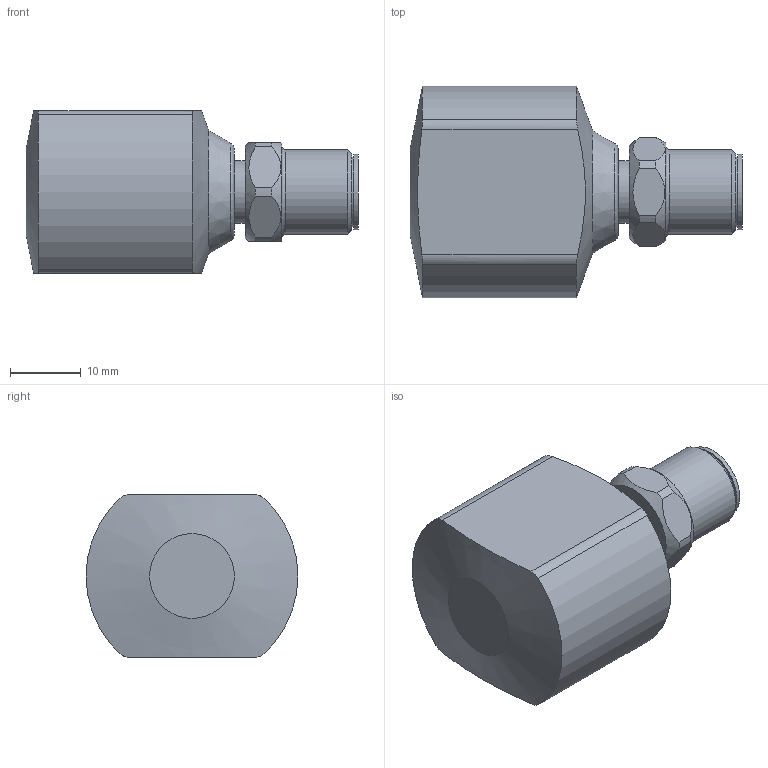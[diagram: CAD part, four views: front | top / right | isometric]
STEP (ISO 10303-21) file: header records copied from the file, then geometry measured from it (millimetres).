
FILE_DESCRIPTION(/* description */ ('STEP AP242','CAx-IF Rec.Pracs.---Representation and Presentation of Product Manufacturing Information (PMI)---4.0---2014-10-13','CAx-IF Rec.Pracs.---3D Tessellated Geometry---0.4---2014-09-14','2;1'),/* implementation_level */ '2;1');
FILE_NAME(/* name */ 'P_MZ_Z_1623',/* time_stamp */ '2022-09-16T10:08:50+02:00',/* author */ ('License CC BY-ND 4.0'),/* organization */ ('CADENAS'),/* preprocessor_version */ 'ST-DEVELOPER v18.102',/* originating_system */ 'PARTsolutions',/* authorisation */ ' ');
FILE_SCHEMA (('AP242_MANAGED_MODEL_BASED_3D_ENGINEERING_MIM_LF { 1 0 10303 442 1 1 4 }'));
Length unit declared in the file: millimetre
Products named in the file (1): P_MZ_Z_1623
Bounding box: 47 x 30 x 23 mm (x, y, z)
Volume: 17304.2 mm3; surface area: 4626.4 mm2
Topology: 1 solids, 1 shells, 55 faces, 128 edges, 85 vertices
Faces by surface type: plane 23, cylinder 22, cone 7, torus 3
Full cylindrical faces by diameter (mm): 1 x4, 8.3 x1, 8.9 x1, 9.9 x1, 10.7 x1, 12 x1
Entity records: 1502 total; most frequent: CARTESIAN_POINT 355, DIRECTION 234, ORIENTED_EDGE 202, AXIS2_PLACEMENT_3D 103, EDGE_CURVE 101, EDGE_LOOP 83, FACE_BOUND 83, VERTEX_POINT 76
